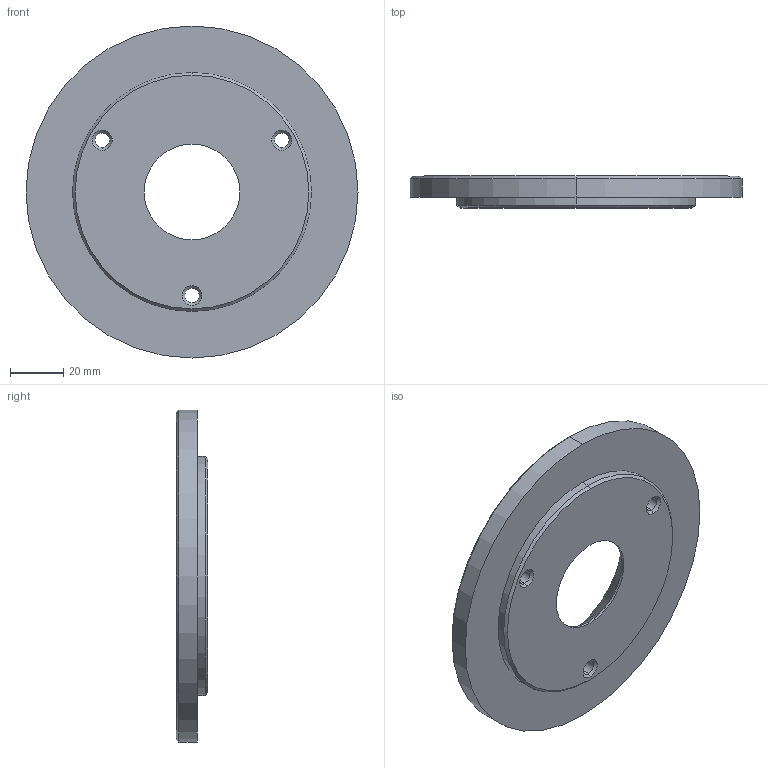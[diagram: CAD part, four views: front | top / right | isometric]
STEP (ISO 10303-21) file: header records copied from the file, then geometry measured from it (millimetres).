
FILE_DESCRIPTION (( 'STEP AP214' ), '1' );
FILE_NAME ('BR1000-125x12.STEP', '2020-02-05T12:22:35', ( 'August' ), ( '' ), 'SwSTEP 2.0', 'SolidWorks 2018', '' );
FILE_SCHEMA (( 'AUTOMOTIVE_DESIGN' ));
Length unit declared in the file: millimetre
Products named in the file (1): BR1000-125x12
Bounding box: 125 x 12 x 125 mm (x, y, z)
Volume: 101125.5 mm3; surface area: 27779.9 mm2
Topology: 1 solids, 1 shells, 42 faces, 90 edges, 54 vertices
Faces by surface type: cone 18, cylinder 18, plane 6
Entity records: 1194 total; most frequent: DIRECTION 230, CARTESIAN_POINT 187, ORIENTED_EDGE 180, AXIS2_PLACEMENT_3D 97, EDGE_CURVE 90, VERTEX_POINT 54, CIRCLE 54, EDGE_LOOP 54
